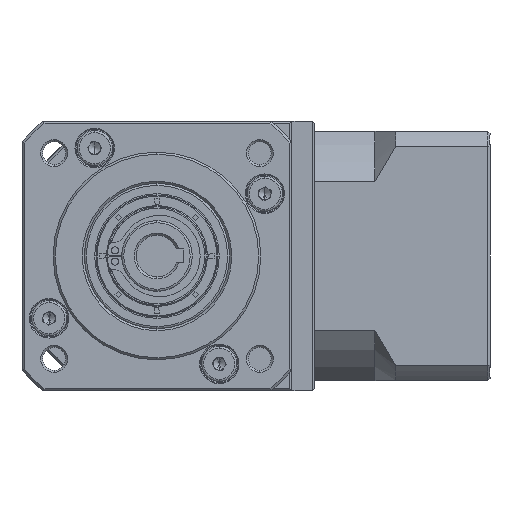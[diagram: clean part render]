
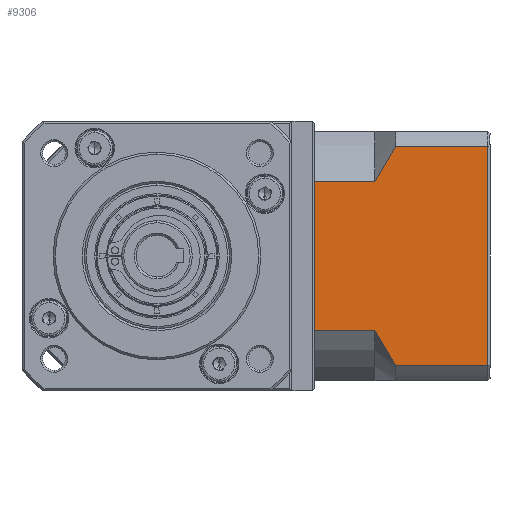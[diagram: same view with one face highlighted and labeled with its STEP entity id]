
A CAD part, left-side view. The second image highlights one B-rep face of the part: STEP entity #9306.
In plain terms, the highlighted planar face has unit normal (-1, 0, 0).
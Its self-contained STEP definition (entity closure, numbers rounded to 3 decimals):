
#694 = DIRECTION ( 'NONE',  ( 0., -1., 0. ) ) ;
#1382 = EDGE_CURVE ( 'NONE', #90492, #125093, #79623, .T. ) ;
#2067 = CARTESIAN_POINT ( 'NONE',  ( -38.56, -68.075, -137.608 ) ) ;
#2996 = DIRECTION ( 'NONE',  ( 1., 0., 0. ) ) ;
#3749 = DIRECTION ( 'NONE',  ( 0., 1., 0. ) ) ;
#3781 = VERTEX_POINT ( 'NONE', #22380 ) ;
#3858 = CARTESIAN_POINT ( 'NONE',  ( -38.56, -72.175, -94.482 ) ) ;
#4495 = ORIENTED_EDGE ( 'NONE', *, *, #55285, .F. ) ;
#5470 = AXIS2_PLACEMENT_3D ( 'NONE', #76109, #2996, #88320 ) ;
#8720 = DIRECTION ( 'NONE',  ( 0., 0., -1. ) ) ;
#9306 = ADVANCED_FACE ( 'NONE', ( #136299 ), #27124, .F. ) ;
#13918 = VECTOR ( 'NONE', #694, 1000. ) ;
#16040 = EDGE_CURVE ( 'NONE', #81547, #125093, #139645, .T. ) ;
#17164 = ORIENTED_EDGE ( 'NONE', *, *, #16040, .F. ) ;
#18012 = CARTESIAN_POINT ( 'NONE',  ( -38.56, -73.075, -93.122 ) ) ;
#18233 = VERTEX_POINT ( 'NONE', #86399 ) ;
#18417 = DIRECTION ( 'NONE',  ( 0., -1., 0. ) ) ;
#19216 = EDGE_CURVE ( 'NONE', #90492, #46649, #46724, .T. ) ;
#19695 = CARTESIAN_POINT ( 'NONE',  ( -38.56, -71.299, -143.295 ) ) ;
#22076 = VECTOR ( 'NONE', #8720, 1000. ) ;
#22152 = ORIENTED_EDGE ( 'NONE', *, *, #1382, .T. ) ;
#22380 = CARTESIAN_POINT ( 'NONE',  ( -38.56, -53.575, -101.552 ) ) ;
#27124 = PLANE ( 'NONE',  #5470 ) ;
#31935 = CARTESIAN_POINT ( 'NONE',  ( -38.56, -73.075, -146.037 ) ) ;
#32254 = VERTEX_POINT ( 'NONE', #56879 ) ;
#40746 = CARTESIAN_POINT ( 'NONE',  ( -38.56, -69.626, -98.669 ) ) ;
#46649 = VERTEX_POINT ( 'NONE', #82466 ) ;
#46724 = LINE ( 'NONE', #52252, #79064 ) ;
#47409 = EDGE_CURVE ( 'NONE', #81547, #18233, #126196, .T. ) ;
#48135 = EDGE_CURVE ( 'NONE', #126369, #46649, #68210, .T. ) ;
#48536 = EDGE_CURVE ( 'NONE', #3781, #32254, #122952, .T. ) ;
#52252 = CARTESIAN_POINT ( 'NONE',  ( -38.56, -68.075, -146.037 ) ) ;
#52955 = CARTESIAN_POINT ( 'NONE',  ( -38.56, -68.075, -101.552 ) ) ;
#55285 = EDGE_CURVE ( 'NONE', #126369, #32254, #101170, .T. ) ;
#56439 = CARTESIAN_POINT ( 'NONE',  ( -38.56, -95.275, -146.037 ) ) ;
#56879 = CARTESIAN_POINT ( 'NONE',  ( -38.56, -53.575, -137.608 ) ) ;
#67749 = ORIENTED_EDGE ( 'NONE', *, *, #68313, .F. ) ;
#68134 = CARTESIAN_POINT ( 'NONE',  ( -38.56, -68.825, -139.064 ) ) ;
#68210 = B_SPLINE_CURVE_WITH_KNOTS ( 'NONE', 3,
 ( #153285, #68134, #92633, #19695, #104887, #31935 ),
 .UNSPECIFIED., .F., .F.,
 ( 4, 2, 4 ),
 ( 0.1, 0.104, 0.109 ),
 .UNSPECIFIED. ) ;
#68313 = EDGE_CURVE ( 'NONE', #3781, #18233, #106302, .T. ) ;
#68739 = VECTOR ( 'NONE', #3749, 1000. ) ;
#76109 = CARTESIAN_POINT ( 'NONE',  ( -38.56, -95.775, -149.58 ) ) ;
#79064 = VECTOR ( 'NONE', #125057, 1000. ) ;
#79623 = LINE ( 'NONE', #150238, #111969 ) ;
#81547 = VERTEX_POINT ( 'NONE', #18012 ) ;
#82466 = CARTESIAN_POINT ( 'NONE',  ( -38.56, -73.075, -146.037 ) ) ;
#83761 = ORIENTED_EDGE ( 'NONE', *, *, #48536, .T. ) ;
#86034 = CARTESIAN_POINT ( 'NONE',  ( -38.56, -68.075, -93.122 ) ) ;
#86399 = CARTESIAN_POINT ( 'NONE',  ( -38.56, -68.075, -101.552 ) ) ;
#88320 = DIRECTION ( 'NONE',  ( 0., 1., 0. ) ) ;
#89012 = DIRECTION ( 'NONE',  ( 0., 0., 1. ) ) ;
#89120 = CARTESIAN_POINT ( 'NONE',  ( -38.56, -73.075, -93.122 ) ) ;
#89492 = EDGE_LOOP ( 'NONE', ( #153010, #22152, #17164, #149504, #67749, #83761, #4495, #152803 ) ) ;
#90492 = VERTEX_POINT ( 'NONE', #56439 ) ;
#91369 = CARTESIAN_POINT ( 'NONE',  ( -38.56, -68.075, -101.552 ) ) ;
#92633 = CARTESIAN_POINT ( 'NONE',  ( -38.56, -69.625, -140.489 ) ) ;
#101170 = LINE ( 'NONE', #112447, #68739 ) ;
#104887 = CARTESIAN_POINT ( 'NONE',  ( -38.56, -72.173, -144.675 ) ) ;
#106302 = LINE ( 'NONE', #91369, #117705 ) ;
#111969 = VECTOR ( 'NONE', #89012, 1000. ) ;
#112447 = CARTESIAN_POINT ( 'NONE',  ( -38.56, -68.075, -137.608 ) ) ;
#113594 = CARTESIAN_POINT ( 'NONE',  ( -38.56, -71.302, -95.861 ) ) ;
#117705 = VECTOR ( 'NONE', #18417, 1000. ) ;
#117904 = CARTESIAN_POINT ( 'NONE',  ( -38.56, -53.575, -149.58 ) ) ;
#120171 = CARTESIAN_POINT ( 'NONE',  ( -38.56, -95.275, -93.122 ) ) ;
#122952 = LINE ( 'NONE', #117904, #22076 ) ;
#125057 = DIRECTION ( 'NONE',  ( 0., 1., 0. ) ) ;
#125093 = VERTEX_POINT ( 'NONE', #120171 ) ;
#125793 = CARTESIAN_POINT ( 'NONE',  ( -38.56, -68.823, -100.1 ) ) ;
#126196 = B_SPLINE_CURVE_WITH_KNOTS ( 'NONE', 3,
 ( #89120, #3858, #113594, #40746, #125793, #52955 ),
 .UNSPECIFIED., .F., .F.,
 ( 4, 2, 4 ),
 ( 0.052, 0.057, 0.062 ),
 .UNSPECIFIED. ) ;
#126369 = VERTEX_POINT ( 'NONE', #2067 ) ;
#136299 = FACE_OUTER_BOUND ( 'NONE', #89492, .T. ) ;
#139645 = LINE ( 'NONE', #86034, #13918 ) ;
#149504 = ORIENTED_EDGE ( 'NONE', *, *, #47409, .T. ) ;
#150238 = CARTESIAN_POINT ( 'NONE',  ( -38.56, -95.275, -149.58 ) ) ;
#152803 = ORIENTED_EDGE ( 'NONE', *, *, #48135, .T. ) ;
#153010 = ORIENTED_EDGE ( 'NONE', *, *, #19216, .F. ) ;
#153285 = CARTESIAN_POINT ( 'NONE',  ( -38.56, -68.075, -137.608 ) ) ;
